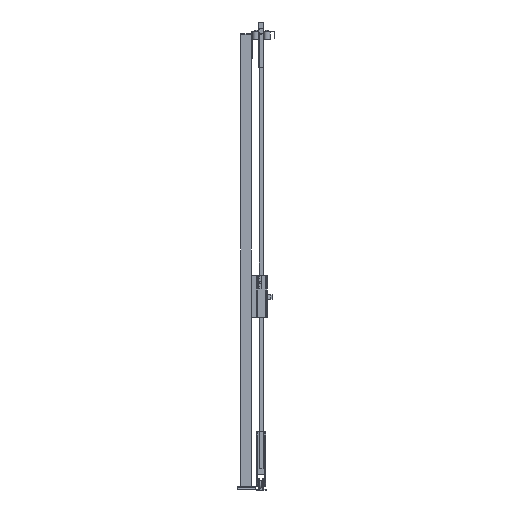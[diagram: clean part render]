
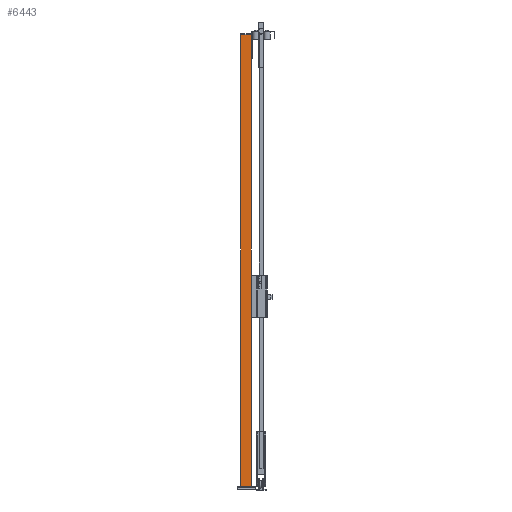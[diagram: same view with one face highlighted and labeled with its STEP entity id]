
A CAD part, left-side view. The second image highlights one B-rep face of the part: STEP entity #6443.
In plain terms, the highlighted planar face has unit normal (-1, 0, 0) as drawn and (0, 1, 0) by its records, which use the part's own axes.
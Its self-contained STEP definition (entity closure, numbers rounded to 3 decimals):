
#928=FACE_OUTER_BOUND('',#1249,.T.);
#1249=EDGE_LOOP('',(#4844,#4845,#4846,#4847));
#1794=LINE('',#9749,#2613);
#1800=LINE('',#9761,#2619);
#1803=LINE('',#9766,#2622);
#1804=LINE('',#9768,#2623);
#2613=VECTOR('',#7622,1.);
#2619=VECTOR('',#7630,1.);
#2622=VECTOR('',#7637,1.);
#2623=VECTOR('',#7640,1.);
#3251=VERTEX_POINT('',#9746);
#3252=VERTEX_POINT('',#9748);
#3254=VERTEX_POINT('',#9754);
#3257=VERTEX_POINT('',#9759);
#3881=EDGE_CURVE('',#3251,#3252,#1794,.T.);
#3887=EDGE_CURVE('',#3257,#3254,#1800,.T.);
#3890=EDGE_CURVE('',#3252,#3257,#1803,.T.);
#3891=EDGE_CURVE('',#3251,#3254,#1804,.T.);
#4844=ORIENTED_EDGE('',*,*,#3891,.T.);
#4845=ORIENTED_EDGE('',*,*,#3887,.F.);
#4846=ORIENTED_EDGE('',*,*,#3890,.F.);
#4847=ORIENTED_EDGE('',*,*,#3881,.F.);
#6176=PLANE('',#6811);
#6443=ADVANCED_FACE('',(#928),#6176,.F.);
#6811=AXIS2_PLACEMENT_3D('',#9767,#7638,#7639);
#7622=DIRECTION('',(-1.,0.,0.));
#7630=DIRECTION('',(1.,0.,0.));
#7637=DIRECTION('',(0.,0.,-1.));
#7638=DIRECTION('center_axis',(0.,-1.,0.));
#7639=DIRECTION('ref_axis',(0.,0.,-1.));
#7640=DIRECTION('',(0.,0.,-1.));
#9746=CARTESIAN_POINT('',(30.,30.,2520.));
#9748=CARTESIAN_POINT('',(-30.,30.,2520.));
#9749=CARTESIAN_POINT('',(0.,30.,2520.));
#9754=CARTESIAN_POINT('',(30.,30.,20.));
#9759=CARTESIAN_POINT('',(-30.,30.,20.));
#9761=CARTESIAN_POINT('',(0.,30.,20.));
#9766=CARTESIAN_POINT('',(-30.,30.,1270.));
#9767=CARTESIAN_POINT('Origin',(0.,30.,
1270.));
#9768=CARTESIAN_POINT('',(30.,30.,1270.));
